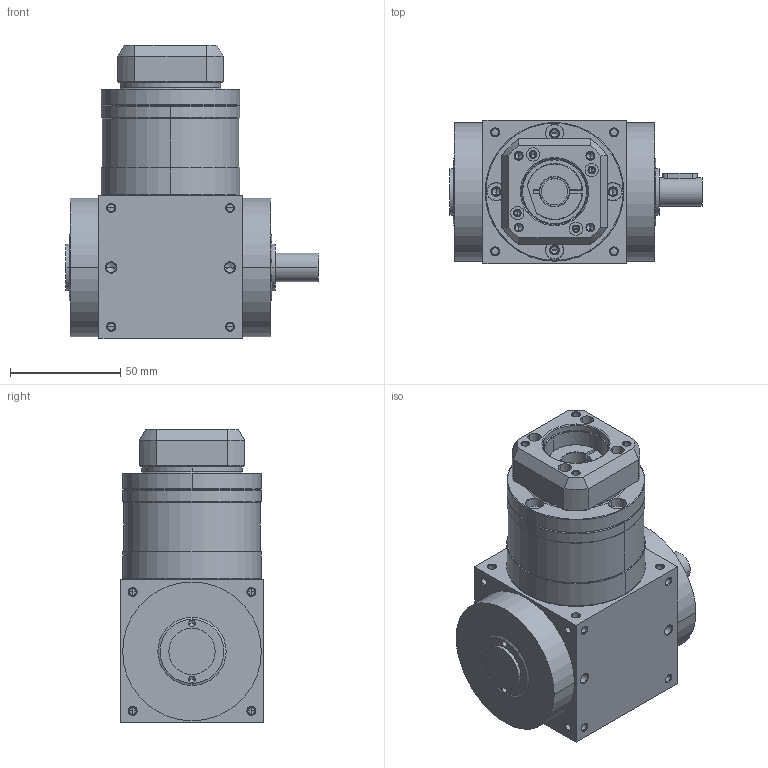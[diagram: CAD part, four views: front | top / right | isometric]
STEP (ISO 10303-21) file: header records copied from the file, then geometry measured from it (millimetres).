
FILE_DESCRIPTION((''),'2;1');
FILE_NAME('AT065FR11-P0403100302_ASM','2010-01-28T',('d00080'),(''),'PRO/ENGINEER BY PARAMETRIC TECHNOLOGY CORPORATION, 2008170','PRO/ENGINEER BY PARAMETRIC TECHNOLOGY CORPORATION, 2008170','');
FILE_SCHEMA(('CONFIG_CONTROL_DESIGN'));
Length unit declared in the file: millimetre
Products named in the file (6): AT065FR1-A; P1801200001; P1502200001; P0501100001; P0403100302; AT065FR11-P0403100302_ASM
Assembly tree (5 placements, depth 2):
  AT065FR11-P0403100302_ASM
    AT065FR1-A
    P1801200001
    P1502200001
    P0501100001
    P0403100302
Bounding box: 114.5 x 65 x 133.5 mm (x, y, z)
Volume: 479513.4 mm3; surface area: 81263.8 mm2
Topology: 5 solids, 44 shells, 758 faces, 1870 edges, 1117 vertices
Faces by surface type: cylinder 333, cone 278, plane 111, torus 36
Entity records: 22815 total; most frequent: CARTESIAN_POINT 4815, DIRECTION 4040, ORIENTED_EDGE 3404, EDGE_CURVE 1780, AXIS2_PLACEMENT_3D 1692, VERTEX_POINT 1117, CIRCLE 913, EDGE_LOOP 911
